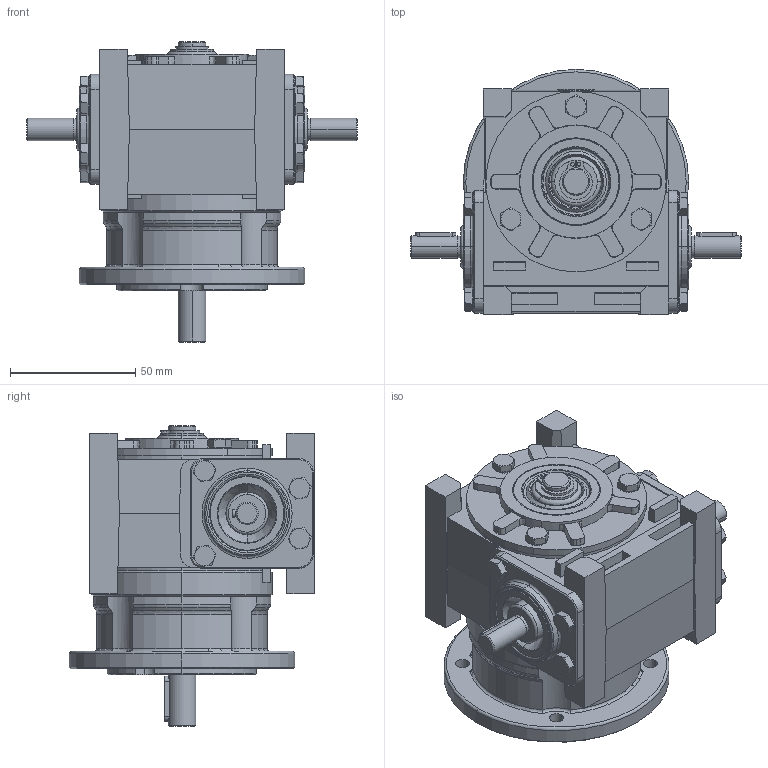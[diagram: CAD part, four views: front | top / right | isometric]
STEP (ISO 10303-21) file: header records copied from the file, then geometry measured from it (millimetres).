
FILE_DESCRIPTION (( 'STEP AP203' ), '1' );
FILE_NAME ('MRA-02_WBS2_K90_WJ_3D.STEP', '2020-04-30T09:34:31', ( '' ), ( '' ), 'SwSTEP 2.0', 'SolidWorks 2013', '' );
FILE_SCHEMA (( 'CONFIG_CONTROL_DESIGN' ));
Length unit declared in the file: millimetre
Products named in the file (18): hex screw gradeab_iso_ISO 4017 - M5 x 10-N; parallel_din_Parallel key A4 x 4 x 18 DIN 6885; Pokrywa 026 v2_MR.026.02.0.12; Pokrywa 023 v2; Simmering 17x30x7; socket head cap screw_iso_ISO 4762 M5 x 10 --- 10N; Korpus 21_S.026.01.1.1.01; Wpust 3x3; Ko³nierz 024 v2; Œlimak RA02_MRA.002.03.3.01; MRA-02_WBS2_K90_WJ_3D; socket head cap screw_iso_ISO 4762 M5 x 25 --- 25N; Œlimacznica 27; Wa³ RA-02_Koˆnierzowy; Pokrywa 22; circlip for shafts normal_din_Circlip DIN 471 - 11 x 1; Simmering 20x35x7 AO; podk³adka wa³u MRA-02
Assembly tree (35 placements, depth 2):
  MRA-02_WBS2_K90_WJ_3D
    Korpus 21_S.026.01.1.1.01
    Œlimak RA02_MRA.002.03.3.01
    Œlimacznica 27
    Pokrywa 22
    Simmering 20x35x7 AO  x2
    hex screw gradeab_iso_ISO 4017 - M5 x 10-N  x11
    Pokrywa 023 v2
    socket head cap screw_iso_ISO 4762 M5 x 10 --- 10N  x3
    Ko³nierz 024 v2
    socket head cap screw_iso_ISO 4762 M5 x 25 --- 25N  x3
    Wa³ RA-02_Koˆnierzowy
    circlip for shafts normal_din_Circlip DIN 471 - 11 x 1
    podk³adka wa³u MRA-02
    parallel_din_Parallel key A4 x 4 x 18 DIN 6885
    Pokrywa 026 v2_MR.026.02.0.12  x2
    Simmering 17x30x7  x2
    Wpust 3x3  x2
Bounding box: 132 x 98 x 120 mm (x, y, z)
Volume: 316826.6 mm3; surface area: 149601.2 mm2
Topology: 35 solids, 35 shells, 1425 faces, 3228 edges, 1932 vertices
Faces by surface type: plane 525, cylinder 417, cone 318, torus 101, bspline 64
Entity records: 30413 total; most frequent: CARTESIAN_POINT 7079, DIRECTION 4611, ORIENTED_EDGE 4198, EDGE_CURVE 2099, AXIS2_PLACEMENT_3D 1806, VERTEX_POINT 1300, EDGE_LOOP 1041, VECTOR 999
